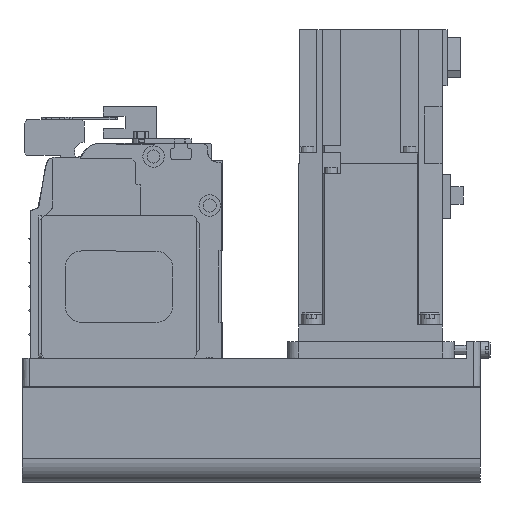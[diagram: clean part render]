
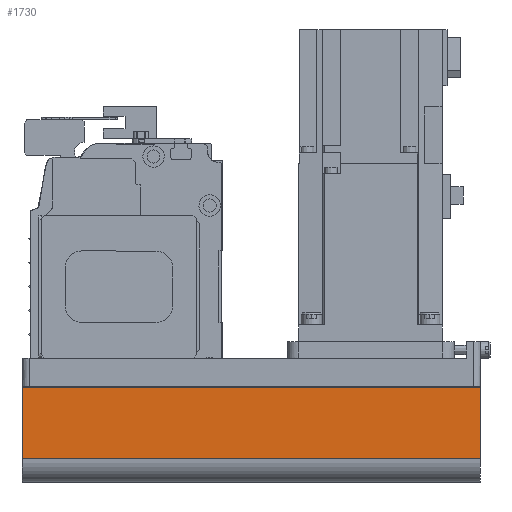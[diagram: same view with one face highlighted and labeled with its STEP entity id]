
A CAD part, left-side view. The second image highlights one B-rep face of the part: STEP entity #1730.
In plain terms, the highlighted planar face has unit normal (-1, 0, 0) as drawn and (0, 1, 0) by its records, which use the part's own axes.
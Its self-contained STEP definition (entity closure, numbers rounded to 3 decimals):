
#1730 = ADVANCED_FACE( '', ( #3866 ), #3867, .T. );
#3866 = FACE_OUTER_BOUND( '', #6450, .T. );
#3867 = PLANE( '', #6451 );
#6450 = EDGE_LOOP( '', ( #11237, #11238, #11239, #11240 ) );
#6451 = AXIS2_PLACEMENT_3D( '', #11241, #11242, #11243 );
#11237 = ORIENTED_EDGE( '', *, *, #15147, .F. );
#11238 = ORIENTED_EDGE( '', *, *, #16192, .F. );
#11239 = ORIENTED_EDGE( '', *, *, #16193, .T. );
#11240 = ORIENTED_EDGE( '', *, *, #16194, .T. );
#11241 = CARTESIAN_POINT( '', ( -192., 40., -42. ) );
#11242 = DIRECTION( '', ( 0., 1., 0. ) );
#11243 = DIRECTION( '', ( 0., 0., 1. ) );
#15147 = EDGE_CURVE( '', #18286, #18287, #18288, .T. );
#16192 = EDGE_CURVE( '', #19854, #18286, #19855, .T. );
#16193 = EDGE_CURVE( '', #19854, #19856, #19857, .T. );
#16194 = EDGE_CURVE( '', #19856, #18287, #19858, .T. );
#18286 = VERTEX_POINT( '', #22534 );
#18287 = VERTEX_POINT( '', #22535 );
#18288 = LINE( '', #22536, #22537 );
#19854 = VERTEX_POINT( '', #24626 );
#19855 = LINE( '', #24627, #24628 );
#19856 = VERTEX_POINT( '', #24629 );
#19857 = LINE( '', #24630, #24631 );
#19858 = LINE( '', #24632, #24633 );
#22534 = CARTESIAN_POINT( '', ( 0., 40., -42. ) );
#22535 = CARTESIAN_POINT( '', ( 0., 40., -12.1 ) );
#22536 = CARTESIAN_POINT( '', ( 0., 40., -42. ) );
#22537 = VECTOR( '', #26788, 1000. );
#24626 = CARTESIAN_POINT( '', ( -192., 40., -42. ) );
#24627 = CARTESIAN_POINT( '', ( -192., 40., -42. ) );
#24628 = VECTOR( '', #28119, 1000. );
#24629 = CARTESIAN_POINT( '', ( -192., 40., -12.1 ) );
#24630 = CARTESIAN_POINT( '', ( -192., 40., -42. ) );
#24631 = VECTOR( '', #28120, 1000. );
#24632 = CARTESIAN_POINT( '', ( -192., 40., -12.1 ) );
#24633 = VECTOR( '', #28121, 1000. );
#26788 = DIRECTION( '', ( 0., 0., 1. ) );
#28119 = DIRECTION( '', ( 1., 0., 0. ) );
#28120 = DIRECTION( '', ( 0., 0., 1. ) );
#28121 = DIRECTION( '', ( 1., 0., 0. ) );
